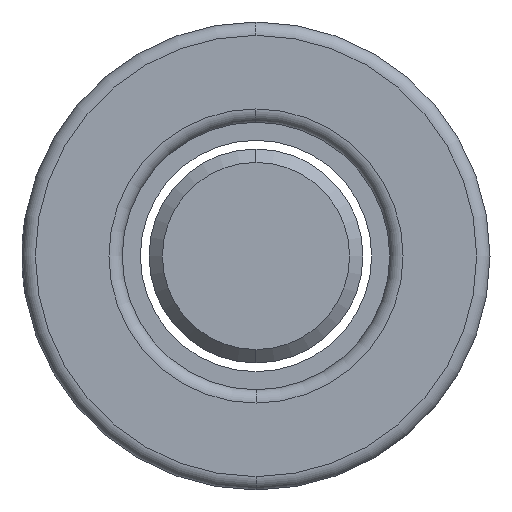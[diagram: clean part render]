
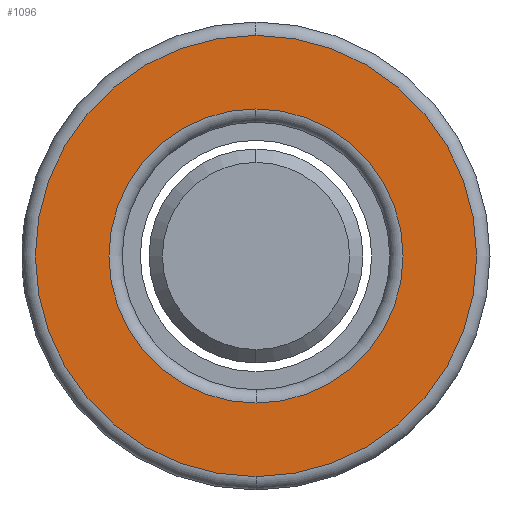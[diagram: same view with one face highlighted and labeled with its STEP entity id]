
A CAD part, left-side view. The second image highlights one B-rep face of the part: STEP entity #1096.
In plain terms, the highlighted planar face has unit normal (-1, 0, 0).
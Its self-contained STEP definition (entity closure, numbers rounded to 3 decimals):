
#40 = CIRCLE ( 'NONE', #273, 5.5 ) ;
#147 = CARTESIAN_POINT ( 'NONE',  ( 0., 0., 5.5 ) ) ;
#250 = EDGE_CURVE ( 'NONE', #1456, #2134, #1362, .T. ) ;
#273 = AXIS2_PLACEMENT_3D ( 'NONE', #339, #684, #2256 ) ;
#315 = CARTESIAN_POINT ( 'NONE',  ( 0., 0., 0. ) ) ;
#339 = CARTESIAN_POINT ( 'NONE',  ( 0., 0., 0. ) ) ;
#426 = FACE_BOUND ( 'NONE', #1298, .T. ) ;
#433 = PLANE ( 'NONE',  #1787 ) ;
#463 = DIRECTION ( 'NONE',  ( 1., 0., 0. ) ) ;
#480 = ORIENTED_EDGE ( 'NONE', *, *, #503, .T. ) ;
#503 = EDGE_CURVE ( 'NONE', #2134, #1456, #1443, .T. ) ;
#662 = DIRECTION ( 'NONE',  ( -1., 0., 0. ) ) ;
#684 = DIRECTION ( 'NONE',  ( 1., 0., 0. ) ) ;
#847 = CARTESIAN_POINT ( 'NONE',  ( 0., 0., 8.25 ) ) ;
#989 = DIRECTION ( 'NONE',  ( 0., 0., -1. ) ) ;
#1052 = AXIS2_PLACEMENT_3D ( 'NONE', #2162, #1273, #1458 ) ;
#1095 = EDGE_CURVE ( 'NONE', #1476, #2114, #1880, .T. ) ;
#1096 = ADVANCED_FACE ( 'NONE', ( #426, #2047 ), #433, .F. ) ;
#1260 = ORIENTED_EDGE ( 'NONE', *, *, #250, .T. ) ;
#1273 = DIRECTION ( 'NONE',  ( -1., 0., 0. ) ) ;
#1284 = CARTESIAN_POINT ( 'NONE',  ( 0., 0., -8.25 ) ) ;
#1298 = EDGE_LOOP ( 'NONE', ( #1536, #1829 ) ) ;
#1314 = DIRECTION ( 'NONE',  ( 1., 0., 0. ) ) ;
#1319 = CARTESIAN_POINT ( 'NONE',  ( 0., 0., 0. ) ) ;
#1335 = CARTESIAN_POINT ( 'NONE',  ( 0., 0., 0. ) ) ;
#1362 = CIRCLE ( 'NONE', #1052, 8.25 ) ;
#1369 = EDGE_LOOP ( 'NONE', ( #480, #1260 ) ) ;
#1443 = CIRCLE ( 'NONE', #1957, 8.25 ) ;
#1456 = VERTEX_POINT ( 'NONE', #847 ) ;
#1458 = DIRECTION ( 'NONE',  ( 0., 0., -1. ) ) ;
#1476 = VERTEX_POINT ( 'NONE', #147 ) ;
#1505 = AXIS2_PLACEMENT_3D ( 'NONE', #1335, #1314, #1866 ) ;
#1536 = ORIENTED_EDGE ( 'NONE', *, *, #1764, .T. ) ;
#1692 = DIRECTION ( 'NONE',  ( 0., 0., -1. ) ) ;
#1764 = EDGE_CURVE ( 'NONE', #2114, #1476, #40, .T. ) ;
#1787 = AXIS2_PLACEMENT_3D ( 'NONE', #1319, #463, #1692 ) ;
#1811 = CARTESIAN_POINT ( 'NONE',  ( 0., 0., -5.5 ) ) ;
#1829 = ORIENTED_EDGE ( 'NONE', *, *, #1095, .T. ) ;
#1866 = DIRECTION ( 'NONE',  ( 0., 0., -1. ) ) ;
#1880 = CIRCLE ( 'NONE', #1505, 5.5 ) ;
#1957 = AXIS2_PLACEMENT_3D ( 'NONE', #315, #662, #989 ) ;
#2047 = FACE_OUTER_BOUND ( 'NONE', #1369, .T. ) ;
#2114 = VERTEX_POINT ( 'NONE', #1811 ) ;
#2134 = VERTEX_POINT ( 'NONE', #1284 ) ;
#2162 = CARTESIAN_POINT ( 'NONE',  ( 0., 0., 0. ) ) ;
#2256 = DIRECTION ( 'NONE',  ( 0., 0., -1. ) ) ;
